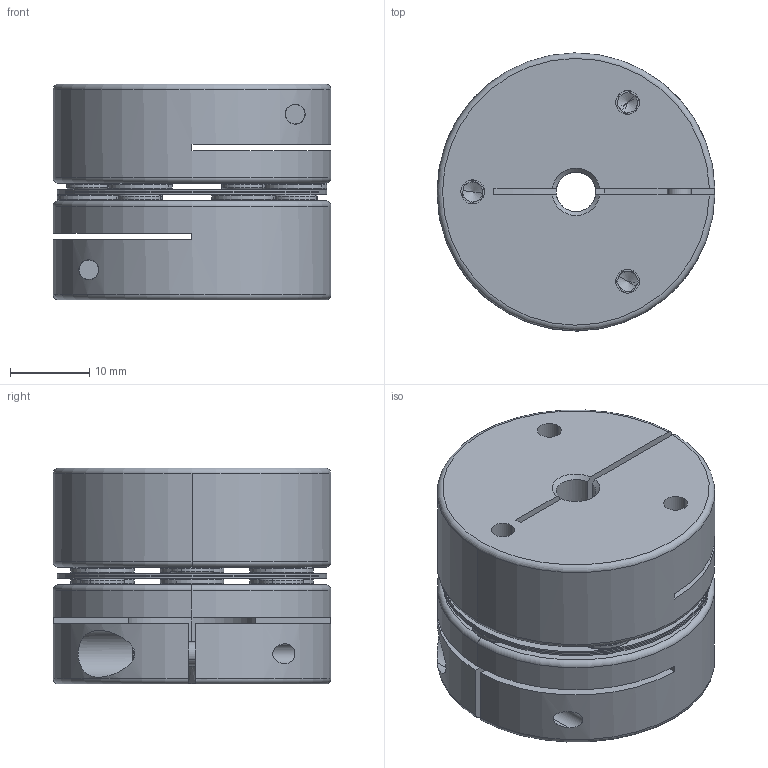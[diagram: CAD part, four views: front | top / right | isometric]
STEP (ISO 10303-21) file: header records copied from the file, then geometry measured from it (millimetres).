
FILE_DESCRIPTION (( 'STEP AP203' ), '1' );
FILE_NAME ('SADS-35C-5-16.STEP', '2019-10-22T09:42:12', ( '' ), ( '' ), 'SwSTEP 2.0', 'SolidWorks 2017', '' );
FILE_SCHEMA (( 'CONFIG_CONTROL_DESIGN' ));
Length unit declared in the file: metre
Products named in the file (1): SADS-35C-5-16
Bounding box: 35 x 35 x 27.2 mm (x, y, z)
Volume: 20264 mm3; surface area: 16673.4 mm2
Topology: 25 solids, 25 shells, 604 faces, 1362 edges, 808 vertices
Faces by surface type: cylinder 219, plane 179, cone 104, torus 102
Entity records: 17221 total; most frequent: DIRECTION 3270, CARTESIAN_POINT 3077, ORIENTED_EDGE 2676, AXIS2_PLACEMENT_3D 1357, EDGE_CURVE 1338, VERTEX_POINT 808, CIRCLE 752, EDGE_LOOP 732
